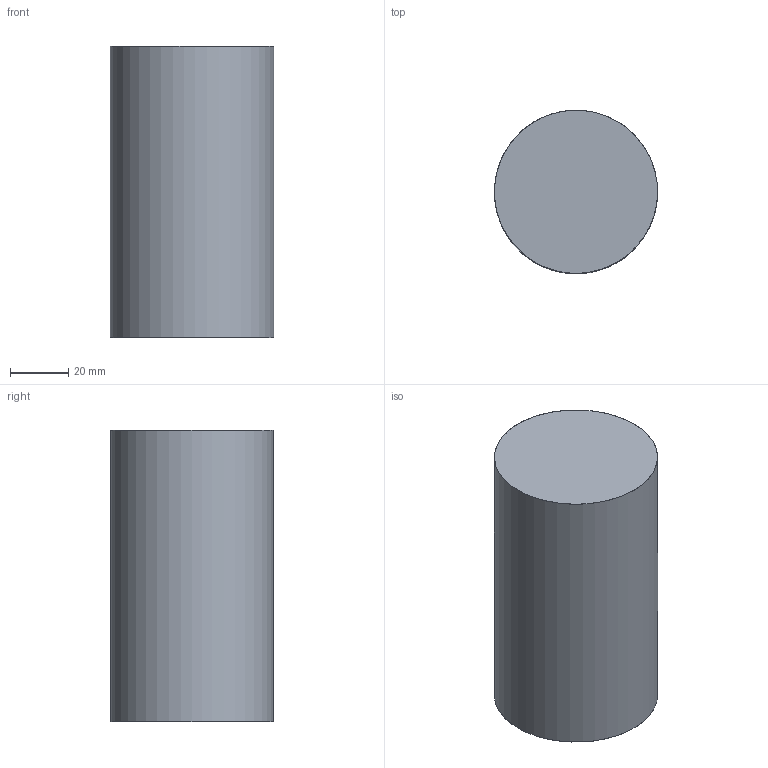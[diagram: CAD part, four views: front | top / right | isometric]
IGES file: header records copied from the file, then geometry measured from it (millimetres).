
Global section: file name: C:\Users\EQUIPO\Desktop\COLECCIONES ACB MODELADAS 3D OK\ZOOM\zoom-3764-plafon (IGES).igs; native system: Rhinoceros ( Oct  8 2013 ); preprocessor: Trout Lake IGES 012 Oct  8 2013; date: 190207.093023; units: millimetre
Bounding box: 56 x 55.97 x 100 mm (x, y, z)
Surface area: 49505.3 mm2 (no closed solid volume)
Topology: 0 solids, 0 shells, 34 faces, 208 edges, 196 vertices
Faces by surface type: bspline 34
